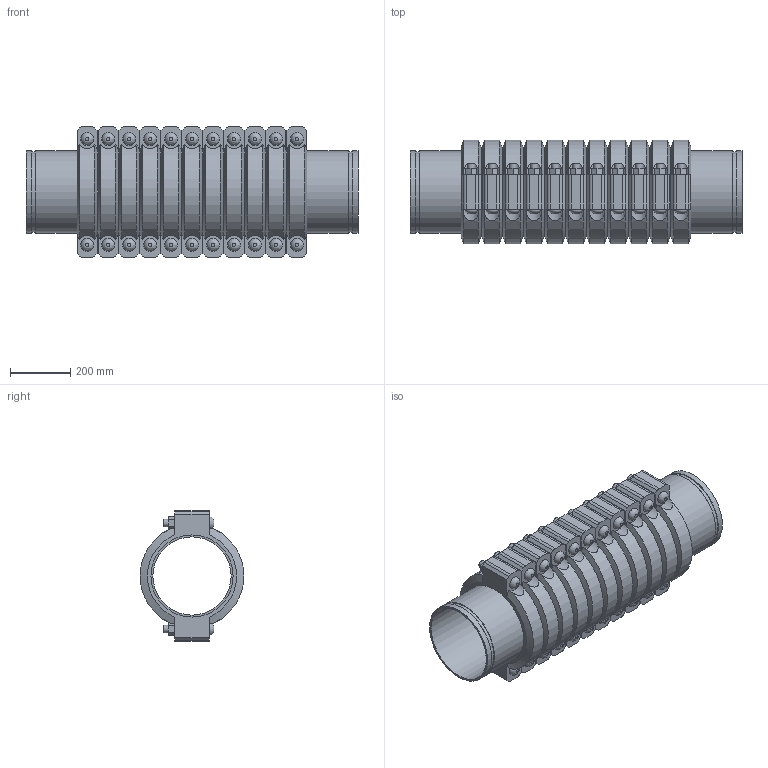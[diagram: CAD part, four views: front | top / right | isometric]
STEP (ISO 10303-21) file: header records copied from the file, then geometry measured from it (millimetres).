
FILE_DESCRIPTION(/* description */ ('VIC SS EXPANSION JOINT 11 COUPLINGS COMPRESSED STYLE 155P (OGS) (POTABLE WATER) ','CAx-IF Rec.Pracs.---Representation and Presentation of Product Manufacturing Information (PMI)---4.0---2014-10-13'),/* implementation_level */ '2;1');
FILE_NAME(/* name */ 'C:\Users\kkamble\AppData\Roaming\Autodesk\ApplicationPlugins\Victaulic.Temp\A148\Victaulic_SS_Expansion Joint_Compressed_11 Couplings_Style 155P (OGS)-Potable Water_11 Coup_Comp_10 (250).stp',/* time_stamp */ '2021-07-16T17:07:10+06:00',/* author */ ('kkamble'),/* organization */ ('Victaulic'),/* preprocessor_version */ 'ST-DEVELOPER v17.2',/* originating_system */ 'Autodesk Inventor 2019',/* authorisation */ '');
FILE_SCHEMA (('AP242_MANAGED_MODEL_BASED_3D_ENGINEERING_MIM_LF { 1 0 10303 442 1 1 4 }'));
Length unit declared in the file: inch
Products named in the file (4): 155P-10.0; Nipple-10.0; Nipple-10.0_1; 077-10.0
Assembly tree (23 placements, depth 2):
  155P-10.0
    Nipple-10.0  x2
    Nipple-10.0_1  x10
    077-10.0  x11
Bounding box: 1104.9 x 344.9 x 435.1 mm (x, y, z)
Volume: 37399912.8 mm3; surface area: 5072821.6 mm2
Topology: 23 solids, 45 shells, 771 faces, 1889 edges, 1322 vertices
Faces by surface type: plane 446, cylinder 259, cone 44, bspline 22
Full cylindrical faces by diameter (mm): 25.4 x44, 27.432 x22, 260.35 x12, 268.275 x24, 273.05 x47
Entity records: 3057 total; most frequent: CARTESIAN_POINT 673, DIRECTION 483, ORIENTED_EDGE 398, EDGE_CURVE 199, AXIS2_PLACEMENT_3D 198, VERTEX_POINT 142, EDGE_LOOP 105, CIRCLE 92
